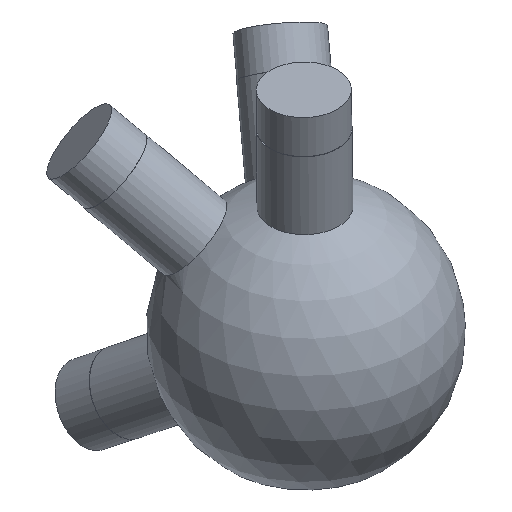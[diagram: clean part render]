
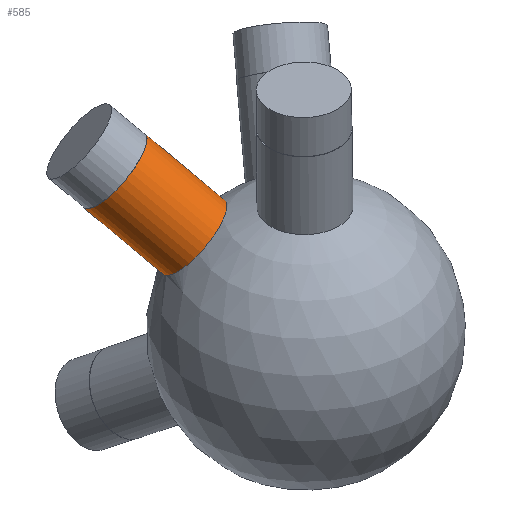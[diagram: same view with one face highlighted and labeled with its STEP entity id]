
A CAD part, isometric view. The second image highlights one B-rep face of the part: STEP entity #585.
In plain terms, the highlighted cylindrical face has radius 6 mm (diameter 12 mm), a full revolution.
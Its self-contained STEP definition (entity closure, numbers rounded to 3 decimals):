
#33 = SPHERICAL_SURFACE('',#34,20.);
#34 = AXIS2_PLACEMENT_3D('',#35,#36,#37);
#35 = CARTESIAN_POINT('',(0.,0.,0.));
#36 = DIRECTION('',(0.,0.,1.));
#37 = DIRECTION('',(1.,0.,-0.));
#322 = EDGE_CURVE('',#323,#323,#325,.T.);
#323 = VERTEX_POINT('',#324);
#324 = CARTESIAN_POINT('',(-8.441,15.816,
    8.866));
#325 = SURFACE_CURVE('',#326,(#331,#407),.PCURVE_S1.);
#326 = CIRCLE('',#327,6.);
#327 = AXIS2_PLACEMENT_3D('',#328,#329,#330);
#328 = CARTESIAN_POINT('',(-8.441,11.315,
    12.834));
#329 = DIRECTION('',(-0.442,0.593,0.673));
#330 = DIRECTION('',(0.,-0.75,0.661));
#331 = PCURVE('',#33,#332);
#332 = DEFINITIONAL_REPRESENTATION('',(#333),#406);
#333 = B_SPLINE_CURVE_WITH_KNOTS('',8,(#334,#335,#336,#337,#338,#339,
    #340,#341,#342,#343,#344,#345,#346,#347,#348,#349,#350,#351,#352,
    #353,#354,#355,#356,#357,#358,#359,#360,#361,#362,#363,#364,#365,
    #366,#367,#368,#369,#370,#371,#372,#373,#374,#375,#376,#377,#378,
    #379,#380,#381,#382,#383,#384,#385,#386,#387,#388,#389,#390,#391,
    #392,#393,#394,#395,#396,#397,#398,#399,#400,#401,#402,#403,#404,
    #405),.UNSPECIFIED.,.T.,.F.,(9,7,7,7,7,7,7,7,7,7,9),(3.142,
    3.927,4.614,5.216,5.742,
    6.202,6.605,6.957,7.574,
    8.5,9.425),.UNSPECIFIED.);
#334 = CARTESIAN_POINT('',(2.061,0.459));
#335 = CARTESIAN_POINT('',(2.092,0.448));
#336 = CARTESIAN_POINT('',(2.123,0.44));
#337 = CARTESIAN_POINT('',(2.155,0.434));
#338 = CARTESIAN_POINT('',(2.188,0.431));
#339 = CARTESIAN_POINT('',(2.22,0.431));
#340 = CARTESIAN_POINT('',(2.253,0.433));
#341 = CARTESIAN_POINT('',(2.285,0.438));
#342 = CARTESIAN_POINT('',(2.344,0.452));
#343 = CARTESIAN_POINT('',(2.371,0.461));
#344 = CARTESIAN_POINT('',(2.398,0.472));
#345 = CARTESIAN_POINT('',(2.423,0.484));
#346 = CARTESIAN_POINT('',(2.448,0.498));
#347 = CARTESIAN_POINT('',(2.471,0.514));
#348 = CARTESIAN_POINT('',(2.493,0.532));
#349 = CARTESIAN_POINT('',(2.532,0.567));
#350 = CARTESIAN_POINT('',(2.549,0.585));
#351 = CARTESIAN_POINT('',(2.564,0.603));
#352 = CARTESIAN_POINT('',(2.578,0.623));
#353 = CARTESIAN_POINT('',(2.591,0.643));
#354 = CARTESIAN_POINT('',(2.602,0.664));
#355 = CARTESIAN_POINT('',(2.61,0.686));
#356 = CARTESIAN_POINT('',(2.623,0.727));
#357 = CARTESIAN_POINT('',(2.628,0.746));
#358 = CARTESIAN_POINT('',(2.63,0.766));
#359 = CARTESIAN_POINT('',(2.631,0.786));
#360 = CARTESIAN_POINT('',(2.63,0.806));
#361 = CARTESIAN_POINT('',(2.627,0.826));
#362 = CARTESIAN_POINT('',(2.621,0.845));
#363 = CARTESIAN_POINT('',(2.606,0.881));
#364 = CARTESIAN_POINT('',(2.596,0.897));
#365 = CARTESIAN_POINT('',(2.585,0.913));
#366 = CARTESIAN_POINT('',(2.572,0.928));
#367 = CARTESIAN_POINT('',(2.556,0.943));
#368 = CARTESIAN_POINT('',(2.539,0.957));
#369 = CARTESIAN_POINT('',(2.518,0.97));
#370 = CARTESIAN_POINT('',(2.476,0.992));
#371 = CARTESIAN_POINT('',(2.455,1.002));
#372 = CARTESIAN_POINT('',(2.432,1.01));
#373 = CARTESIAN_POINT('',(2.407,1.018));
#374 = CARTESIAN_POINT('',(2.381,1.025));
#375 = CARTESIAN_POINT('',(2.354,1.031));
#376 = CARTESIAN_POINT('',(2.325,1.035));
#377 = CARTESIAN_POINT('',(2.271,1.041));
#378 = CARTESIAN_POINT('',(2.245,1.043));
#379 = CARTESIAN_POINT('',(2.218,1.043));
#380 = CARTESIAN_POINT('',(2.192,1.043));
#381 = CARTESIAN_POINT('',(2.166,1.042));
#382 = CARTESIAN_POINT('',(2.14,1.04));
#383 = CARTESIAN_POINT('',(2.114,1.037));
#384 = CARTESIAN_POINT('',(2.047,1.026));
#385 = CARTESIAN_POINT('',(2.006,1.016));
#386 = CARTESIAN_POINT('',(1.968,1.004));
#387 = CARTESIAN_POINT('',(1.935,0.989));
#388 = CARTESIAN_POINT('',(1.905,0.973));
#389 = CARTESIAN_POINT('',(1.88,0.955));
#390 = CARTESIAN_POINT('',(1.859,0.935));
#391 = CARTESIAN_POINT('',(1.816,0.883));
#392 = CARTESIAN_POINT('',(1.799,0.85));
#393 = CARTESIAN_POINT('',(1.79,0.815));
#394 = CARTESIAN_POINT('',(1.788,0.78));
#395 = CARTESIAN_POINT('',(1.792,0.745));
#396 = CARTESIAN_POINT('',(1.801,0.711));
#397 = CARTESIAN_POINT('',(1.815,0.677));
#398 = CARTESIAN_POINT('',(1.851,0.614));
#399 = CARTESIAN_POINT('',(1.873,0.584));
#400 = CARTESIAN_POINT('',(1.898,0.556));
#401 = CARTESIAN_POINT('',(1.927,0.531));
#402 = CARTESIAN_POINT('',(1.957,0.508));
#403 = CARTESIAN_POINT('',(1.99,0.488));
#404 = CARTESIAN_POINT('',(2.025,0.472));
#405 = CARTESIAN_POINT('',(2.061,0.459));
#406 = ( GEOMETRIC_REPRESENTATION_CONTEXT(2) 
PARAMETRIC_REPRESENTATION_CONTEXT() REPRESENTATION_CONTEXT('2D SPACE',''
  ) );
#407 = PCURVE('',#408,#413);
#408 = CYLINDRICAL_SURFACE('',#409,6.);
#409 = AXIS2_PLACEMENT_3D('',#410,#411,#412);
#410 = CARTESIAN_POINT('',(0.,0.,0.));
#411 = DIRECTION('',(-0.442,0.593,0.673));
#412 = DIRECTION('',(0.,0.75,-0.661)
  );
#413 = DEFINITIONAL_REPRESENTATION('',(#414),#418);
#414 = LINE('',#415,#416);
#415 = CARTESIAN_POINT('',(-3.142,19.079));
#416 = VECTOR('',#417,1.);
#417 = DIRECTION('',(1.,0.));
#418 = ( GEOMETRIC_REPRESENTATION_CONTEXT(2) 
PARAMETRIC_REPRESENTATION_CONTEXT() REPRESENTATION_CONTEXT('2D SPACE',''
  ) );
#585 = ADVANCED_FACE('',(#586),#408,.T.);
#586 = FACE_BOUND('',#587,.T.);
#587 = EDGE_LOOP('',(#588,#611,#638,#639));
#588 = ORIENTED_EDGE('',*,*,#589,.T.);
#589 = EDGE_CURVE('',#323,#590,#592,.T.);
#590 = VERTEX_POINT('',#591);
#591 = CARTESIAN_POINT('',(-14.475,23.904,
    18.04));
#592 = SEAM_CURVE('',#593,(#597,#604),.PCURVE_S1.);
#593 = LINE('',#594,#595);
#594 = CARTESIAN_POINT('',(0.,4.501,
    -3.968));
#595 = VECTOR('',#596,1.);
#596 = DIRECTION('',(-0.442,0.593,0.673));
#597 = PCURVE('',#408,#598);
#598 = DEFINITIONAL_REPRESENTATION('',(#599),#603);
#599 = LINE('',#600,#601);
#600 = CARTESIAN_POINT('',(6.283,-0.));
#601 = VECTOR('',#602,1.);
#602 = DIRECTION('',(0.,1.));
#603 = ( GEOMETRIC_REPRESENTATION_CONTEXT(2) 
PARAMETRIC_REPRESENTATION_CONTEXT() REPRESENTATION_CONTEXT('2D SPACE',''
  ) );
#604 = PCURVE('',#408,#605);
#605 = DEFINITIONAL_REPRESENTATION('',(#606),#610);
#606 = LINE('',#607,#608);
#607 = CARTESIAN_POINT('',(0.,-0.));
#608 = VECTOR('',#609,1.);
#609 = DIRECTION('',(0.,1.));
#610 = ( GEOMETRIC_REPRESENTATION_CONTEXT(2) 
PARAMETRIC_REPRESENTATION_CONTEXT() REPRESENTATION_CONTEXT('2D SPACE',''
  ) );
#611 = ORIENTED_EDGE('',*,*,#612,.F.);
#612 = EDGE_CURVE('',#590,#590,#613,.T.);
#613 = SURFACE_CURVE('',#614,(#619,#626),.PCURVE_S1.);
#614 = CIRCLE('',#615,6.);
#615 = AXIS2_PLACEMENT_3D('',#616,#617,#618);
#616 = CARTESIAN_POINT('',(-14.475,19.403,
    22.008));
#617 = DIRECTION('',(-0.442,0.593,0.673));
#618 = DIRECTION('',(0.,0.75,-0.661)
  );
#619 = PCURVE('',#408,#620);
#620 = DEFINITIONAL_REPRESENTATION('',(#621),#625);
#621 = LINE('',#622,#623);
#622 = CARTESIAN_POINT('',(0.,32.716));
#623 = VECTOR('',#624,1.);
#624 = DIRECTION('',(1.,0.));
#625 = ( GEOMETRIC_REPRESENTATION_CONTEXT(2) 
PARAMETRIC_REPRESENTATION_CONTEXT() REPRESENTATION_CONTEXT('2D SPACE',''
  ) );
#626 = PCURVE('',#627,#632);
#627 = PLANE('',#628);
#628 = AXIS2_PLACEMENT_3D('',#629,#630,#631);
#629 = CARTESIAN_POINT('',(-14.475,19.403,
    22.008));
#630 = DIRECTION('',(-0.442,0.593,0.673));
#631 = DIRECTION('',(0.,0.75,-0.661)
  );
#632 = DEFINITIONAL_REPRESENTATION('',(#633),#637);
#633 = CIRCLE('',#634,6.);
#634 = AXIS2_PLACEMENT_2D('',#635,#636);
#635 = CARTESIAN_POINT('',(0.,0.));
#636 = DIRECTION('',(1.,0.));
#637 = ( GEOMETRIC_REPRESENTATION_CONTEXT(2) 
PARAMETRIC_REPRESENTATION_CONTEXT() REPRESENTATION_CONTEXT('2D SPACE',''
  ) );
#638 = ORIENTED_EDGE('',*,*,#589,.F.);
#639 = ORIENTED_EDGE('',*,*,#322,.T.);
